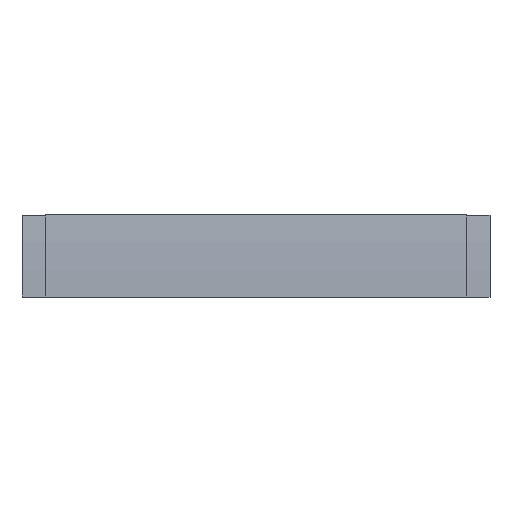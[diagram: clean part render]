
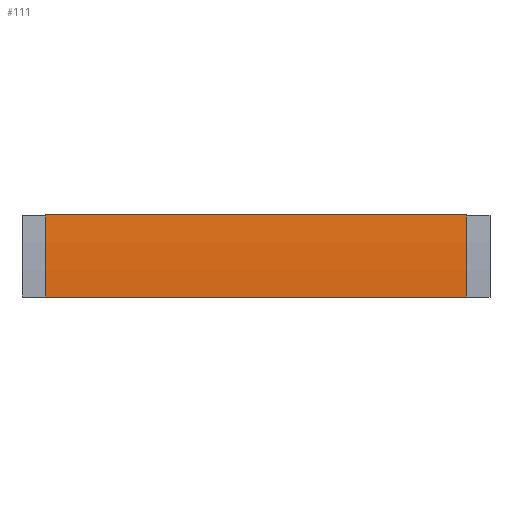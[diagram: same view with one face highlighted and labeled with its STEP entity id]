
A CAD part, front view. The second image highlights one B-rep face of the part: STEP entity #111.
In plain terms, the highlighted cylindrical face has radius 568 mm (diameter 1136 mm), a partial arc.
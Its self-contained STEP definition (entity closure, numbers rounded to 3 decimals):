
#13 = AXIS2_PLACEMENT_3D ( 'NONE', #1022, #1015, #1016 ) ;
#14 = AXIS2_PLACEMENT_3D ( 'NONE', #569, #568, #567 ) ;
#47 = EDGE_CURVE ( 'NONE', #497, #504, #379, .T. ) ;
#50 = EDGE_CURVE ( 'NONE', #495, #502, #384, .T. ) ;
#51 = EDGE_CURVE ( 'NONE', #497, #495, #381, .T. ) ;
#52 = EDGE_CURVE ( 'NONE', #504, #502, #387, .T. ) ;
#111 = ADVANCED_FACE ( 'NONE', ( #669 ), #676, .T. ) ;
#149 = ORIENTED_EDGE ( 'NONE', *, *, #51, .F. ) ;
#150 = ORIENTED_EDGE ( 'NONE', *, *, #50, .F. ) ;
#310 = EDGE_LOOP ( 'NONE', ( #150, #149, #451, #450 ) ) ;
#379 = CIRCLE ( 'NONE', #14, 568. ) ;
#381 = LINE ( 'NONE', #1018, #388 ) ;
#384 = CIRCLE ( 'NONE', #13, 568. ) ;
#387 = LINE ( 'NONE', #1013, #390 ) ;
#388 = VECTOR ( 'NONE', #1014, 1000. ) ;
#390 = VECTOR ( 'NONE', #1008, 1000. ) ;
#450 = ORIENTED_EDGE ( 'NONE', *, *, #52, .T. ) ;
#451 = ORIENTED_EDGE ( 'NONE', *, *, #47, .T. ) ;
#495 = VERTEX_POINT ( 'NONE', #807 ) ;
#497 = VERTEX_POINT ( 'NONE', #809 ) ;
#502 = VERTEX_POINT ( 'NONE', #814 ) ;
#504 = VERTEX_POINT ( 'NONE', #816 ) ;
#537 = CARTESIAN_POINT ( 'NONE',  ( 0., 500., 0. ) ) ;
#546 = DIRECTION ( 'NONE',  ( 0., 0., -1. ) ) ;
#553 = DIRECTION ( 'NONE',  ( 1., 0., 0. ) ) ;
#567 = DIRECTION ( 'NONE',  ( 0., 0., -1. ) ) ;
#568 = DIRECTION ( 'NONE',  ( 1., 0., 0. ) ) ;
#569 = CARTESIAN_POINT ( 'NONE',  ( -190.5, 500., 0. ) ) ;
#669 = FACE_OUTER_BOUND ( 'NONE', #310, .T. ) ;
#676 = CYLINDRICAL_SURFACE ( 'NONE', #867, 568. ) ;
#807 = CARTESIAN_POINT ( 'NONE',  ( 190.5, -63.141, 74.139 ) ) ;
#809 = CARTESIAN_POINT ( 'NONE',  ( -190.5, -63.141, 74.139 ) ) ;
#814 = CARTESIAN_POINT ( 'NONE',  ( 190.5, -68., 0. ) ) ;
#816 = CARTESIAN_POINT ( 'NONE',  ( -190.5, -68., 0. ) ) ;
#867 = AXIS2_PLACEMENT_3D ( 'NONE', #537, #553, #546 ) ;
#1008 = DIRECTION ( 'NONE',  ( 1., 0., 0. ) ) ;
#1013 = CARTESIAN_POINT ( 'NONE',  ( -190.5, -68., 0. ) ) ;
#1014 = DIRECTION ( 'NONE',  ( 1., 0., 0. ) ) ;
#1015 = DIRECTION ( 'NONE',  ( 1., 0., 0. ) ) ;
#1016 = DIRECTION ( 'NONE',  ( 0., 0., -1. ) ) ;
#1018 = CARTESIAN_POINT ( 'NONE',  ( -190.5, -63.141, 74.139 ) ) ;
#1022 = CARTESIAN_POINT ( 'NONE',  ( 190.5, 500., 0. ) ) ;
